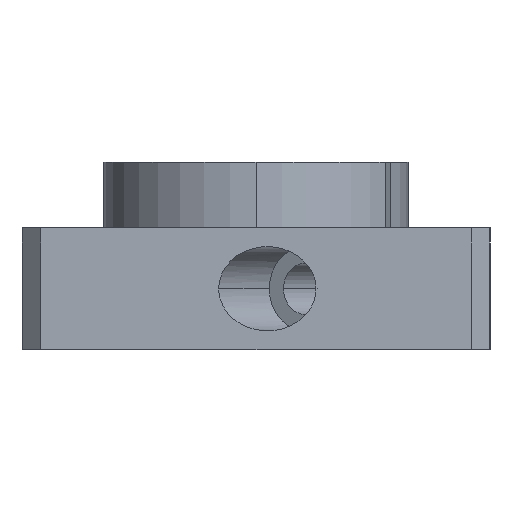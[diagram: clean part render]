
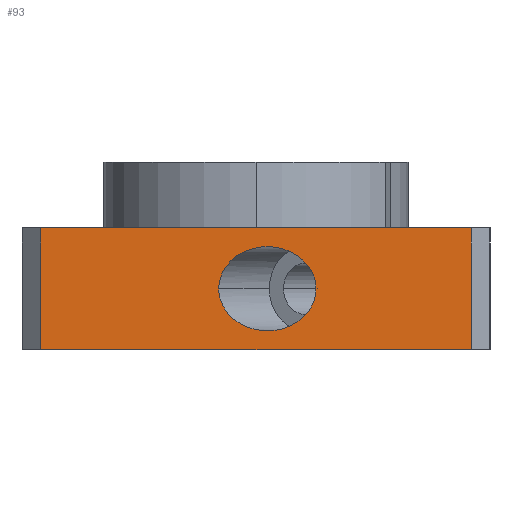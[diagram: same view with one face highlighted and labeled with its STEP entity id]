
A CAD part, left-side view. The second image highlights one B-rep face of the part: STEP entity #93.
In plain terms, the highlighted planar face has unit normal (-1, 0, 0).
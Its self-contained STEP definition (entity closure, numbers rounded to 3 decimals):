
#1 = CARTESIAN_POINT ( 'NONE',  ( -50., 7.966, -25. ) ) ;
#7 = LINE ( 'NONE', #482, #1245 ) ;
#32 = VECTOR ( 'NONE', #128, 1000. ) ;
#65 = EDGE_CURVE ( 'NONE', #528, #1146, #535, .T. ) ;
#93 = ADVANCED_FACE ( 'NONE', ( #1142, #358 ), #368, .F. ) ;
#111 = DIRECTION ( 'NONE',  ( 0., -1., 0. ) ) ;
#128 = DIRECTION ( 'NONE',  ( 0., -1., 0. ) ) ;
#144 = CARTESIAN_POINT ( 'NONE',  ( -50., 7.966, -7. ) ) ;
#191 = VERTEX_POINT ( 'NONE', #370 ) ;
#286 = CARTESIAN_POINT ( 'NONE',  ( -50., 46., 20. ) ) ;
#293 = ORIENTED_EDGE ( 'NONE', *, *, #720, .T. ) ;
#294 = VECTOR ( 'NONE', #111, 1000. ) ;
#304 = EDGE_CURVE ( 'NONE', #597, #1244, #612, .T. ) ;
#328 = CARTESIAN_POINT ( 'NONE',  ( -50., 46., 6. ) ) ;
#331 = EDGE_CURVE ( 'NONE', #191, #1146, #7, .T. ) ;
#358 = FACE_OUTER_BOUND ( 'NONE', #840, .T. ) ;
#368 = PLANE ( 'NONE',  #1186 ) ;
#370 = CARTESIAN_POINT ( 'NONE',  ( -50., -46., -20. ) ) ;
#383 = EDGE_CURVE ( 'NONE', #415, #191, #889, .T. ) ;
#415 = VERTEX_POINT ( 'NONE', #706 ) ;
#429 = CARTESIAN_POINT ( 'NONE',  ( -50., 7.966, 11. ) ) ;
#444 = EDGE_LOOP ( 'NONE', ( #1223, #659 ) ) ;
#445 = CARTESIAN_POINT ( 'NONE',  ( -50., 50., 6. ) ) ;
#482 = CARTESIAN_POINT ( 'NONE',  ( -50., -46., 20. ) ) ;
#528 = VERTEX_POINT ( 'NONE', #328 ) ;
#535 = LINE ( 'NONE', #445, #32 ) ;
#591 = ORIENTED_EDGE ( 'NONE', *, *, #383, .T. ) ;
#597 = VERTEX_POINT ( 'NONE', #1238 ) ;
#604 = ORIENTED_EDGE ( 'NONE', *, *, #331, .T. ) ;
#612 =( BOUNDED_CURVE ( )  B_SPLINE_CURVE ( 3, ( #1064, #693, #1, #787 ),
 .UNSPECIFIED., .F., .T. ) 
 B_SPLINE_CURVE_WITH_KNOTS ( ( 4, 4 ),
 ( 3.142, 6.283 ),
 .UNSPECIFIED. ) 
 CURVE ( )  GEOMETRIC_REPRESENTATION_ITEM ( )  RATIONAL_B_SPLINE_CURVE ( ( 1., 0.333, 0.333, 1. ) ) 
 REPRESENTATION_ITEM ( '' )  );
#626 = CARTESIAN_POINT ( 'NONE',  ( -50., -12.819, 11. ) ) ;
#659 = ORIENTED_EDGE ( 'NONE', *, *, #979, .T. ) ;
#693 = CARTESIAN_POINT ( 'NONE',  ( -50., -12.819, -25. ) ) ;
#706 = CARTESIAN_POINT ( 'NONE',  ( -50., 46., -20. ) ) ;
#715 = CARTESIAN_POINT ( 'NONE',  ( -50., -46., 6. ) ) ;
#720 = EDGE_CURVE ( 'NONE', #528, #415, #773, .T. ) ;
#753 =( BOUNDED_CURVE ( )  B_SPLINE_CURVE ( 3, ( #144, #429, #626, #938 ),
 .UNSPECIFIED., .F., .T. ) 
 B_SPLINE_CURVE_WITH_KNOTS ( ( 4, 4 ),
 ( 0., 3.142 ),
 .UNSPECIFIED. ) 
 CURVE ( )  GEOMETRIC_REPRESENTATION_ITEM ( )  RATIONAL_B_SPLINE_CURVE ( ( 1., 0.333, 0.333, 1. ) ) 
 REPRESENTATION_ITEM ( '' )  );
#773 = LINE ( 'NONE', #286, #1067 ) ;
#787 = CARTESIAN_POINT ( 'NONE',  ( -50., 7.966, -7. ) ) ;
#788 = CARTESIAN_POINT ( 'NONE',  ( -50., 7.966, -7. ) ) ;
#840 = EDGE_LOOP ( 'NONE', ( #591, #604, #962, #293 ) ) ;
#849 = CARTESIAN_POINT ( 'NONE',  ( -50., 50., 20. ) ) ;
#889 = LINE ( 'NONE', #1077, #294 ) ;
#896 = DIRECTION ( 'NONE',  ( 0., 0., 1. ) ) ;
#938 = CARTESIAN_POINT ( 'NONE',  ( -50., -12.819, -7. ) ) ;
#943 = DIRECTION ( 'NONE',  ( 0., 1., 0. ) ) ;
#962 = ORIENTED_EDGE ( 'NONE', *, *, #65, .F. ) ;
#979 = EDGE_CURVE ( 'NONE', #1244, #597, #753, .T. ) ;
#1047 = DIRECTION ( 'NONE',  ( 1., 0., 0. ) ) ;
#1064 = CARTESIAN_POINT ( 'NONE',  ( -50., -12.819, -7. ) ) ;
#1067 = VECTOR ( 'NONE', #1156, 1000. ) ;
#1077 = CARTESIAN_POINT ( 'NONE',  ( -50., 50., -20. ) ) ;
#1142 = FACE_BOUND ( 'NONE', #444, .T. ) ;
#1146 = VERTEX_POINT ( 'NONE', #715 ) ;
#1156 = DIRECTION ( 'NONE',  ( 0., 0., -1. ) ) ;
#1186 = AXIS2_PLACEMENT_3D ( 'NONE', #849, #1047, #943 ) ;
#1223 = ORIENTED_EDGE ( 'NONE', *, *, #304, .T. ) ;
#1238 = CARTESIAN_POINT ( 'NONE',  ( -50., -12.819, -7. ) ) ;
#1244 = VERTEX_POINT ( 'NONE', #788 ) ;
#1245 = VECTOR ( 'NONE', #896, 1000. ) ;
